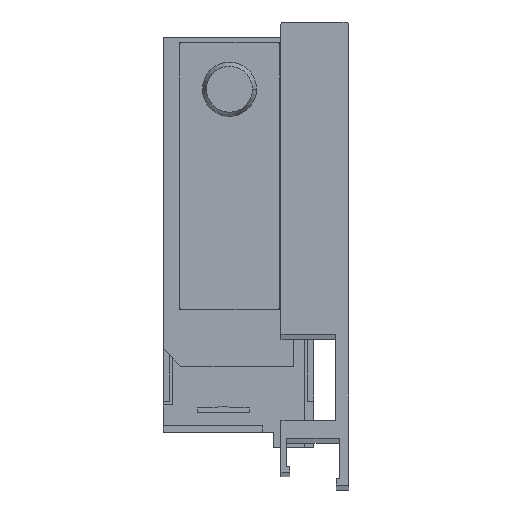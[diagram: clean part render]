
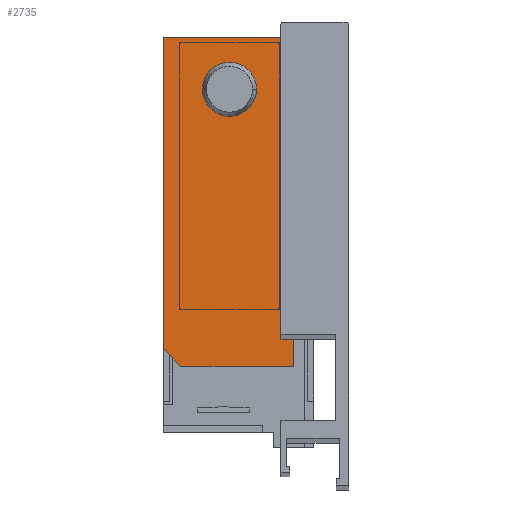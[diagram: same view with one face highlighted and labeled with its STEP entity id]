
A CAD part, top view. The second image highlights one B-rep face of the part: STEP entity #2735.
In plain terms, the highlighted planar face has unit normal (0, 0, 1).
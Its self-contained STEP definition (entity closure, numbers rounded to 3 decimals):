
#28 = ORIENTED_EDGE ( 'NONE', *, *, #3050, .T. ) ;
#60 = EDGE_CURVE ( 'NONE', #2532, #2013, #1870, .T. ) ;
#134 = VERTEX_POINT ( 'NONE', #448 ) ;
#233 = EDGE_CURVE ( 'NONE', #611, #2532, #2527, .T. ) ;
#324 = ORIENTED_EDGE ( 'NONE', *, *, #1963, .T. ) ;
#339 = LINE ( 'NONE', #2538, #2726 ) ;
#347 = CARTESIAN_POINT ( 'NONE',  ( -33.1, -1.85, -540. ) ) ;
#365 = CARTESIAN_POINT ( 'NONE',  ( 0., 0., -540. ) ) ;
#383 = VERTEX_POINT ( 'NONE', #2007 ) ;
#411 = CARTESIAN_POINT ( 'NONE',  ( -25.6, 48., -540. ) ) ;
#415 = CARTESIAN_POINT ( 'NONE',  ( -8.1, -5.2, -540. ) ) ;
#423 = CARTESIAN_POINT ( 'NONE',  ( -15.2, 48., -540. ) ) ;
#448 = CARTESIAN_POINT ( 'NONE',  ( -10.5, 0., -540. ) ) ;
#460 = LINE ( 'NONE', #347, #2344 ) ;
#461 = CARTESIAN_POINT ( 'NONE',  ( -8.1, 0., -540. ) ) ;
#497 = DIRECTION ( 'NONE',  ( 0., 0., -1. ) ) ;
#501 = EDGE_LOOP ( 'NONE', ( #2689, #1303, #1804, #1758, #324, #781, #1949 ) ) ;
#525 = DIRECTION ( 'NONE',  ( -1., 0., 0. ) ) ;
#544 = LINE ( 'NONE', #3006, #2430 ) ;
#553 = DIRECTION ( 'NONE',  ( 0., 1., 0. ) ) ;
#594 = FACE_BOUND ( 'NONE', #595, .T. ) ;
#595 = EDGE_LOOP ( 'NONE', ( #28, #2654 ) ) ;
#611 = VERTEX_POINT ( 'NONE', #1122 ) ;
#697 = VERTEX_POINT ( 'NONE', #411 ) ;
#781 = ORIENTED_EDGE ( 'NONE', *, *, #2212, .T. ) ;
#867 = AXIS2_PLACEMENT_3D ( 'NONE', #935, #2660, #1179 ) ;
#925 = EDGE_CURVE ( 'NONE', #2013, #134, #1292, .T. ) ;
#935 = CARTESIAN_POINT ( 'NONE',  ( -20.4, 48., -540. ) ) ;
#1087 = EDGE_CURVE ( 'NONE', #1243, #383, #339, .T. ) ;
#1097 = DIRECTION ( 'NONE',  ( 0., 0., 1. ) ) ;
#1122 = CARTESIAN_POINT ( 'NONE',  ( -29.75, -5.2, -540. ) ) ;
#1149 = VECTOR ( 'NONE', #1875, 1000. ) ;
#1179 = DIRECTION ( 'NONE',  ( 1., 0., 0. ) ) ;
#1243 = VERTEX_POINT ( 'NONE', #2614 ) ;
#1245 = FACE_OUTER_BOUND ( 'NONE', #501, .T. ) ;
#1292 = LINE ( 'NONE', #1733, #1364 ) ;
#1303 = ORIENTED_EDGE ( 'NONE', *, *, #925, .T. ) ;
#1328 = PLANE ( 'NONE',  #2084 ) ;
#1364 = VECTOR ( 'NONE', #525, 1000. ) ;
#1373 = VECTOR ( 'NONE', #2140, 1000. ) ;
#1463 = CARTESIAN_POINT ( 'NONE',  ( -33.1, -1.85, -540. ) ) ;
#1503 = DIRECTION ( 'NONE',  ( 0.707, -0.707, 0. ) ) ;
#1613 = EDGE_CURVE ( 'NONE', #134, #1243, #544, .T. ) ;
#1668 = CARTESIAN_POINT ( 'NONE',  ( -8.1, -5.2, -540. ) ) ;
#1699 = DIRECTION ( 'NONE',  ( 1., 0., 0. ) ) ;
#1733 = CARTESIAN_POINT ( 'NONE',  ( 1.7, 0., -540. ) ) ;
#1758 = ORIENTED_EDGE ( 'NONE', *, *, #1087, .T. ) ;
#1804 = ORIENTED_EDGE ( 'NONE', *, *, #1613, .T. ) ;
#1859 = VECTOR ( 'NONE', #1699, 1000. ) ;
#1870 = LINE ( 'NONE', #415, #1149 ) ;
#1875 = DIRECTION ( 'NONE',  ( 0., 1., 0. ) ) ;
#1949 = ORIENTED_EDGE ( 'NONE', *, *, #233, .T. ) ;
#1955 = CARTESIAN_POINT ( 'NONE',  ( -20.4, 48., -540. ) ) ;
#1963 = EDGE_CURVE ( 'NONE', #383, #3052, #2065, .T. ) ;
#1996 = CIRCLE ( 'NONE', #867, 5.2 ) ;
#2007 = CARTESIAN_POINT ( 'NONE',  ( -33.1, 58., -540. ) ) ;
#2013 = VERTEX_POINT ( 'NONE', #461 ) ;
#2048 = DIRECTION ( 'NONE',  ( -1., 0., 0. ) ) ;
#2065 = LINE ( 'NONE', #3130, #1373 ) ;
#2084 = AXIS2_PLACEMENT_3D ( 'NONE', #365, #1097, #2828 ) ;
#2140 = DIRECTION ( 'NONE',  ( 0., -1., 0. ) ) ;
#2212 = EDGE_CURVE ( 'NONE', #3052, #611, #460, .T. ) ;
#2222 = DIRECTION ( 'NONE',  ( 1., 0., 0. ) ) ;
#2344 = VECTOR ( 'NONE', #1503, 1000. ) ;
#2361 = AXIS2_PLACEMENT_3D ( 'NONE', #1955, #497, #2222 ) ;
#2399 = CIRCLE ( 'NONE', #2361, 5.2 ) ;
#2430 = VECTOR ( 'NONE', #553, 1000. ) ;
#2433 = VERTEX_POINT ( 'NONE', #423 ) ;
#2447 = CARTESIAN_POINT ( 'NONE',  ( -29.75, -5.2, -540. ) ) ;
#2527 = LINE ( 'NONE', #2447, #1859 ) ;
#2532 = VERTEX_POINT ( 'NONE', #1668 ) ;
#2538 = CARTESIAN_POINT ( 'NONE',  ( -5.45, 58., -540. ) ) ;
#2614 = CARTESIAN_POINT ( 'NONE',  ( -10.5, 58., -540. ) ) ;
#2654 = ORIENTED_EDGE ( 'NONE', *, *, #2930, .T. ) ;
#2660 = DIRECTION ( 'NONE',  ( 0., 0., -1. ) ) ;
#2689 = ORIENTED_EDGE ( 'NONE', *, *, #60, .T. ) ;
#2726 = VECTOR ( 'NONE', #2048, 1000. ) ;
#2735 = ADVANCED_FACE ( 'NONE', ( #1245, #594 ), #1328, .T. ) ;
#2828 = DIRECTION ( 'NONE',  ( 1., 0., 0. ) ) ;
#2930 = EDGE_CURVE ( 'NONE', #2433, #697, #1996, .T. ) ;
#3006 = CARTESIAN_POINT ( 'NONE',  ( -10.5, 59.9, -540. ) ) ;
#3050 = EDGE_CURVE ( 'NONE', #697, #2433, #2399, .T. ) ;
#3052 = VERTEX_POINT ( 'NONE', #1463 ) ;
#3130 = CARTESIAN_POINT ( 'NONE',  ( -33.1, 58., -540. ) ) ;
